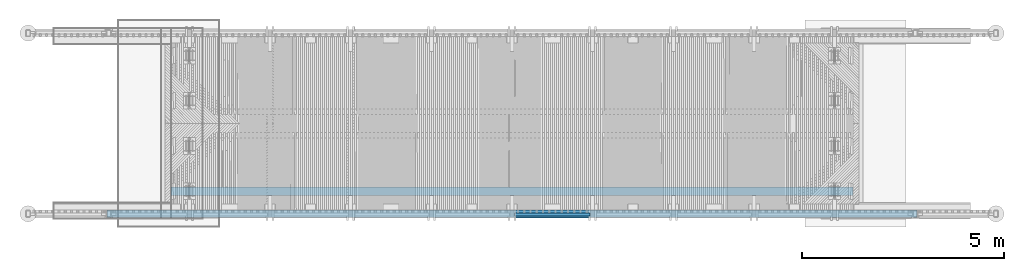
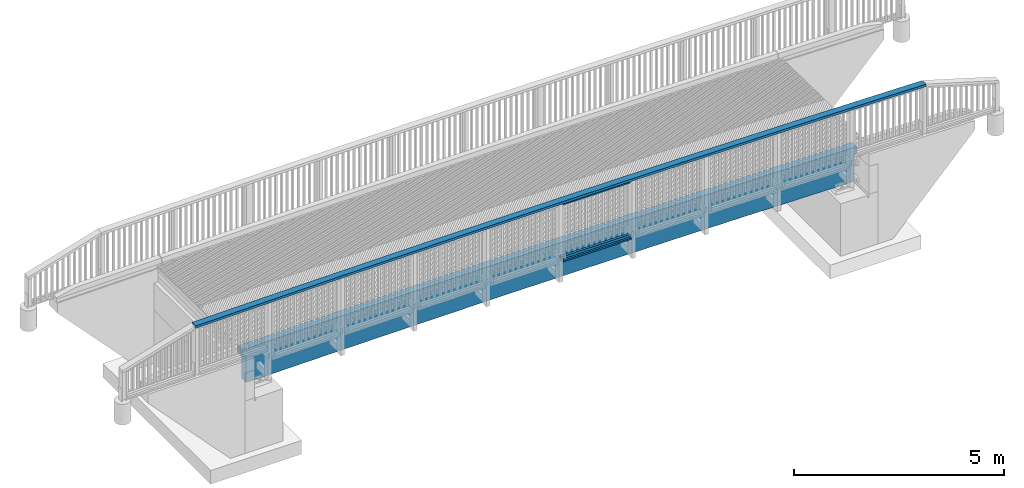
# One storey, part 28 of 52: 5 beams.
"""IFC2X3 building model written with IfcOpenShell, lengths in millimetres."""

from ifc_helpers import new_model, si_unit, frame, origin_with_axes, place, context, subcontext, project, spatial, faceted_brep, material, type_object, element, save


model = new_model("IFC2X3")

# Units and contexts
model_context = context("Model", 3, precision=1e-05, world=origin_with_axes())
body_context = subcontext(model_context, "Body", "Model", "MODEL_VIEW")
ifc_project = project(units=[si_unit("LENGTHUNIT", "METRE", prefix="MILLI"), si_unit("AREAUNIT", "SQUARE_METRE"), si_unit("VOLUMEUNIT", "CUBIC_METRE"), si_unit("MASSUNIT", "GRAM", prefix="KILO"), si_unit("TIMEUNIT", "SECOND"), si_unit("PLANEANGLEUNIT", "RADIAN"), si_unit("SOLIDANGLEUNIT", "STERADIAN"), si_unit("THERMODYNAMICTEMPERATUREUNIT", "DEGREE_CELSIUS"), si_unit("LUMINOUSINTENSITYUNIT", "LUMEN")], contexts=[model_context])

# Site, building, storey
site_placement = place(None, origin_with_axes())
site = spatial("IfcSite", under=ifc_project, at=site_placement, Name="Undefined", CompositionType="ELEMENT")
building_placement = place(site_placement, origin_with_axes())
building = spatial("IfcBuilding", under=site, at=building_placement, Name="Undefined", CompositionType="ELEMENT")
storey_placement = place(building_placement, origin_with_axes())
storey = spatial("IfcBuildingStorey", under=building, at=storey_placement, Name="Undefined", CompositionType="ELEMENT", Elevation=0.0)

# Beams
ifc_material = material(Name="TIMBER/Timber_Undefined")
beam_type_1 = type_object("IfcBeamType", Name="70*70", PredefinedType="NOTDEFINED")
for number, where, z_axis, x_axis, name in (
    (1, (8059.93901393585, 110.010014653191, 2968.2738534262), (0.0, -1.0, 0.0), (0.999998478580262, 0.0, -0.00174437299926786), "BEAM"),
    (2, (8059.93901393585, 110.010014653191, 4528.2738534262), (0.0, -1.0, 0.0), (0.999998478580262, 0.0, -0.00174437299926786), "BEAM"),
):
    element("IfcBeam", number, at=place(storey_placement, frame(where, z_axis=z_axis, x_axis=x_axis)), inside=storey, type_object=beam_type_1, material=ifc_material, Name=name, ObjectType="70*70", context=body_context, shape_type="Brep", body=[
        faceted_brep([(-3.63797880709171e-12, 35.0000000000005, -35.0), (-3.63797880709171e-12, 35.0000000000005, 35.0), (1880.00289069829, 35.0, 35.0), (1880.00289069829, 35.0, -35.0), (-3.63797880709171e-12, -34.9999999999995, 35.0), (1880.00289069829, -35.0000000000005, 35.0), (-3.63797880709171e-12, -34.9999999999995, -35.0), (1880.00289069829, -35.0000000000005, -35.0)], [[[0, 1, 2, 3]], [[1, 4, 5, 2]], [[4, 6, 7, 5]], [[6, 0, 3, 7]], [[5, 7, 3, 2]], [[6, 4, 1, 0]]]),
    ])
beam_type_2 = type_object("IfcBeamType", Name="180*70", PredefinedType="NOTDEFINED")
beam_1_placement = place(storey_placement, frame((-2050.58316541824, 125.012091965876, 4514.55540579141), z_axis=(0.0, -1.0, 0.0), x_axis=(1.0, 0.0, 0.0)))
element("IfcBeam", 3, at=beam_1_placement, inside=storey, type_object=beam_type_2, material=ifc_material, Name="YLÄJOHDE", ObjectType="180*70", context=body_context, shape_type="Brep", body=[
    faceted_brep([(402.548160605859, -28.4307633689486, -90.0), (402.548160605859, -28.4307633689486, 90.0), (9.583166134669, -34.8481648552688, 90.0), (9.583166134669, -34.8481648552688, -90.0), (401.428487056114, 41.5602812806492, 90.0), (9.58316627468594, 35.1611648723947, 90.0), (401.428487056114, 41.5602812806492, -90.0), (9.58316627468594, 35.1611648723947, -90.0), (803.444421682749, 47.8574786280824, -90.0), (804.517445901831, -22.1342967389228, -90.0), (804.517445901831, -22.1342967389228, 90.0), (803.444421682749, 47.8574786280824, 90.0), (1205.46446410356, 53.8867306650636, 90.0), (1205.46446410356, 53.8867306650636, -90.0), (1206.49083851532, -16.105744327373, -90.0), (1206.49083851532, -16.105744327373, 90.0), (1608.46815988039, -10.3451088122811, 90.0), (1607.4884357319, 59.6480347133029, 90.0), (1607.4884357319, 59.6480347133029, -90.0), (1608.46815988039, -10.3451088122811, -90.0), (2010.44923142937, -4.85239275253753, -90.0), (2010.44923142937, -4.85239275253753, 90.0), (2009.51615797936, 65.1413882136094, 90.0), (2009.51615797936, 65.1413882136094, -90.0), (2411.54745225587, 70.3667887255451, -90.0), (2412.43387459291, 0.372401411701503, -90.0), (2412.43387459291, 0.372401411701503, 90.0), (2411.54745225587, 70.3667887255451, 90.0), (2813.58213996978, 75.3242339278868, 90.0), (2813.58213996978, 75.3242339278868, -90.0), (2814.42191080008, 5.32927135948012, -90.0), (2814.42191080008, 5.32927135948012, 90.0), (3216.41316147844, 10.0182148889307, 90.0), (3215.62004252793, 80.0137216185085, 90.0), (3215.62004252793, 80.0137216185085, -90.0), (3216.41316147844, 10.0182148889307, -90.0), (3618.40744805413, 14.4392299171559, -90.0), (3618.40744805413, 14.4392299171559, 90.0), (3617.66098133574, 84.4352497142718, 90.0), (3617.66098133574, 84.4352497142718, -90.0), (4019.70477779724, 88.5888162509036, -90.0), (4020.40459195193, 18.5923144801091, -90.0), (4020.40459195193, 18.5923144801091, 90.0), (4019.70477779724, 88.5888162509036, 90.0), (4421.75125331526, 92.4744193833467, 90.0), (4421.75125331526, 92.4744193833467, -90.0), (4422.40441459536, 22.4774667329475, -90.0), (4422.40441459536, 22.4774667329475, 90.0), (4824.40673740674, 26.0946849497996, 90.0), (4823.80022929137, 96.0920573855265, 90.0), (4823.80022929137, 96.0920573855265, -90.0), (4824.40673740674, 26.0946849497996, -90.0), (5226.4113818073, 29.4439675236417, -90.0), (5226.4113818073, 29.4439675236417, 90.0), (5225.85152712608, 99.4417286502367, 90.0), (5225.85152712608, 99.4417286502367, -90.0), (5627.90496821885, 102.523431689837, -90.0), (5628.41816921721, 32.5253129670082, -90.0), (5628.41816921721, 32.5253129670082, 90.0), (5627.90496821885, 102.523431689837, 90.0), (6029.96037396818, 105.337165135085, 90.0), (6029.96037396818, 105.337165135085, -90.0), (6030.4269210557, 35.3387199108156, -90.0), (6030.4269210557, 35.3387199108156, 90.0), (6432.43745874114, 37.8841871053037, 90.0), (6432.01756577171, 107.882927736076, 90.0), (6432.01756577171, 107.882927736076, -90.0), (6432.43745874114, 37.8841871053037, -90.0), (6834.4496036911, 40.1617134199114, -90.0), (6834.4496036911, 40.1617134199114, 90.0), (6834.07636502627, 110.160718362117, 90.0), (6834.07636502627, 110.160718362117, -90.0), (7236.136593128, 112.170536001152, -90.0), (7236.46317732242, 42.1712978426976, -90.0), (7236.46317732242, 42.1712978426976, 90.0), (7236.136593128, 112.170536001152, 90.0), (7638.19807147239, 113.912379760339, 90.0), (7638.19807147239, 113.912379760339, -90.0), (7638.47800105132, 43.9129394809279, -90.0), (7638.47800105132, 43.9129394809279, 90.0), (8040.49389629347, 45.3866375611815, 90.0), (8040.26062145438, 115.38624886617, 90.0), (8040.26062145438, 115.38624886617, -90.0), (8040.49389629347, 45.3866375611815, -90.0), (8442.51068446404, 46.5923914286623, -90.0), (8442.51068446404, 46.5923914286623, 90.0), (8442.32406446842, 116.592142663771, 90.0), (8442.32406446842, 116.592142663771, -90.0), (8844.38822190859, 117.530060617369, -90.0), (8844.52818697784, 47.530200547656, -90.0), (8844.52818697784, 47.530200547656, 90.0), (8844.38822190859, 117.530060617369, 90.0), (9246.45291516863, 118.200002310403, 90.0), (9246.45291516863, 118.200002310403, -90.0), (9246.54622524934, 48.2000645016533, -90.0), (9246.54622524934, 48.2000645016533, 90.0), (9648.56462069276, 48.6019829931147, 90.0), (9648.51796564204, 118.601967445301, 90.0), (9648.51796564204, 118.601967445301, -90.0), (9648.56462069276, 48.6019829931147, -90.0), (10050.5831947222, 48.7359558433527, -90.0), (10050.5831947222, 48.7359558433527, 90.0), (10050.5831947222, 118.735955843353, 90.0), (10050.5831947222, 118.735955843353, -90.0), (10452.6484238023, 118.601967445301, -90.0), (10452.6017687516, 48.6019829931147, -90.0), (10452.6017687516, 48.6019829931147, 90.0), (10452.6484238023, 118.601967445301, 90.0), (10854.7134742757, 118.200002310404, 90.0), (10854.7134742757, 118.200002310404, -90.0), (10854.620164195, 48.2000645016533, -90.0), (10854.620164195, 48.2000645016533, 90.0), (11256.6382024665, 47.530200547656, 90.0), (11256.7781675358, 117.530060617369, 90.0), (11256.7781675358, 117.530060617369, -90.0), (11256.6382024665, 47.530200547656, -90.0), (11658.6557049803, 46.5923914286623, -90.0), (11658.6557049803, 46.5923914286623, 90.0), (11658.8423249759, 116.592142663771, 90.0), (11658.8423249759, 116.592142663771, -90.0), (12060.90576799, 115.386248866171, -90.0), (12060.6724931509, 45.3866375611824, -90.0), (12060.6724931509, 45.3866375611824, 90.0), (12060.90576799, 115.386248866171, 90.0), (12462.968317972, 113.912379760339, 90.0), (12462.968317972, 113.912379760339, -90.0), (12462.688388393, 43.9129394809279, -90.0), (12462.688388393, 43.9129394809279, 90.0), (12864.7032121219, 42.1712978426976, 90.0), (12865.0297963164, 112.170536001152, 90.0), (12865.0297963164, 112.170536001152, -90.0), (12864.7032121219, 42.1712978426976, -90.0), (13266.7167857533, 40.1617134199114, -90.0), (13266.7167857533, 40.1617134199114, 90.0), (13267.0900244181, 110.160718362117, 90.0), (13267.0900244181, 110.160718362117, -90.0), (13669.1488236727, 107.882927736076, -90.0), (13668.7289307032, 37.8841871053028, -90.0), (13668.7289307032, 37.8841871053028, 90.0), (13669.1488236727, 107.882927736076, 90.0), (14071.2060154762, 105.337165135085, 90.0), (14071.2060154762, 105.337165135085, -90.0), (14070.7394683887, 35.3387199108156, -90.0), (14070.7394683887, 35.3387199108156, 90.0), (14472.7482202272, 32.5253129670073, 90.0), (14473.2614212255, 102.523431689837, 90.0), (14473.2614212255, 102.523431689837, -90.0), (14472.7482202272, 32.5253129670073, -90.0), (14874.7550076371, 29.4439675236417, -90.0), (14874.7550076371, 29.4439675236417, 90.0), (14875.3148623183, 99.4417286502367, 90.0), (14875.3148623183, 99.4417286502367, -90.0), (15277.366160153, 96.0920573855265, -90.0), (15276.7596520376, 26.0946849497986, -90.0), (15276.7596520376, 26.0946849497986, 90.0), (15277.366160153, 96.0920573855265, 90.0), (15679.4151361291, 92.4744193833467, 90.0), (15679.4151361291, 92.4744193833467, -90.0), (15678.761974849, 22.4774667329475, -90.0), (15678.761974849, 22.4774667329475, 90.0), (16080.7617974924, 18.5923144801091, 90.0), (16081.4616116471, 88.5888162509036, 90.0), (16081.4616116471, 88.5888162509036, -90.0), (16080.7617974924, 18.5923144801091, -90.0), (16482.7589413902, 14.4392299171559, -90.0), (16482.7589413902, 14.4392299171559, 90.0), (16483.5054081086, 84.4352497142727, 90.0), (16483.5054081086, 84.4352497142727, -90.0), (16885.5463469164, 80.0137216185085, -90.0), (16884.7532279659, 10.0182148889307, -90.0), (16884.7532279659, 10.0182148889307, 90.0), (16885.5463469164, 80.0137216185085, 90.0), (17287.5842494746, 75.3242339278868, 90.0), (17287.5842494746, 75.3242339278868, -90.0), (17286.7444786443, 5.32927135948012, -90.0), (17286.7444786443, 5.32927135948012, 90.0), (17688.7325148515, 0.372401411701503, 90.0), (17689.6189371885, 70.3667887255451, 90.0), (17689.6189371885, 70.3667887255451, -90.0), (17688.7325148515, 0.372401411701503, -90.0), (18090.717158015, -4.85239275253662, -90.0), (18090.717158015, -4.85239275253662, 90.0), (18091.650231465, 65.1413882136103, 90.0), (18091.650231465, 65.1413882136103, -90.0), (18493.6779537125, 59.648034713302, -90.0), (18492.698229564, -10.3451088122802, -90.0), (18492.698229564, -10.3451088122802, 90.0), (18493.6779537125, 59.648034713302, 90.0), (18895.7019253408, 53.8867306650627, 90.0), (18895.7019253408, 53.8867306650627, -90.0), (18894.675550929, -16.1057443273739, -90.0), (18894.675550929, -16.1057443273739, 90.0), (19296.6489435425, -22.1342967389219, 90.0), (19297.7219677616, 47.8574786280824, 90.0), (19297.7219677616, 47.8574786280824, -90.0), (19296.6489435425, -22.1342967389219, -90.0), (19698.6182288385, -28.4307633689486, -90.0), (19698.6182288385, -28.4307633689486, 90.0), (19699.7379023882, 41.5602812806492, 90.0), (19699.7379023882, 41.5602812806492, -90.0), (20089.5831647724, 35.1938272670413, -90.0), (20089.5831646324, -34.8155024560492, -90.0), (20089.5831646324, -34.8155024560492, 90.0), (20089.5831647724, 35.1938272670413, 90.0)], [[[0, 1, 2, 3]], [[1, 4, 5, 2]], [[4, 6, 7, 5]], [[2, 5, 7, 3]], [[6, 0, 3, 7]], [[0, 6, 8, 9]], [[1, 0, 9, 10]], [[4, 1, 10, 11]], [[6, 4, 11, 8]], [[8, 11, 12, 13]], [[9, 8, 13, 14]], [[10, 9, 14, 15]], [[11, 10, 15, 12]], [[12, 15, 16, 17]], [[13, 12, 17, 18]], [[14, 13, 18, 19]], [[15, 14, 19, 16]], [[16, 19, 20, 21]], [[17, 16, 21, 22]], [[18, 17, 22, 23]], [[19, 18, 23, 20]], [[20, 23, 24, 25]], [[21, 20, 25, 26]], [[22, 21, 26, 27]], [[23, 22, 27, 24]], [[24, 27, 28, 29]], [[25, 24, 29, 30]], [[26, 25, 30, 31]], [[27, 26, 31, 28]], [[28, 31, 32, 33]], [[29, 28, 33, 34]], [[30, 29, 34, 35]], [[31, 30, 35, 32]], [[32, 35, 36, 37]], [[33, 32, 37, 38]], [[34, 33, 38, 39]], [[35, 34, 39, 36]], [[36, 39, 40, 41]], [[37, 36, 41, 42]], [[38, 37, 42, 43]], [[39, 38, 43, 40]], [[40, 43, 44, 45]], [[41, 40, 45, 46]], [[42, 41, 46, 47]], [[43, 42, 47, 44]], [[44, 47, 48, 49]], [[45, 44, 49, 50]], [[46, 45, 50, 51]], [[47, 46, 51, 48]], [[48, 51, 52, 53]], [[49, 48, 53, 54]], [[50, 49, 54, 55]], [[51, 50, 55, 52]], [[52, 55, 56, 57]], [[53, 52, 57, 58]], [[54, 53, 58, 59]], [[55, 54, 59, 56]], [[56, 59, 60, 61]], [[57, 56, 61, 62]], [[58, 57, 62, 63]], [[59, 58, 63, 60]], [[60, 63, 64, 65]], [[61, 60, 65, 66]], [[62, 61, 66, 67]], [[63, 62, 67, 64]], [[64, 67, 68, 69]], [[65, 64, 69, 70]], [[66, 65, 70, 71]], [[67, 66, 71, 68]], [[68, 71, 72, 73]], [[69, 68, 73, 74]], [[70, 69, 74, 75]], [[71, 70, 75, 72]], [[72, 75, 76, 77]], [[73, 72, 77, 78]], [[74, 73, 78, 79]], [[75, 74, 79, 76]], [[76, 79, 80, 81]], [[77, 76, 81, 82]], [[78, 77, 82, 83]], [[79, 78, 83, 80]], [[80, 83, 84, 85]], [[81, 80, 85, 86]], [[82, 81, 86, 87]], [[83, 82, 87, 84]], [[84, 87, 88, 89]], [[85, 84, 89, 90]], [[86, 85, 90, 91]], [[87, 86, 91, 88]], [[88, 91, 92, 93]], [[89, 88, 93, 94]], [[90, 89, 94, 95]], [[91, 90, 95, 92]], [[92, 95, 96, 97]], [[93, 92, 97, 98]], [[94, 93, 98, 99]], [[95, 94, 99, 96]], [[96, 99, 100, 101]], [[97, 96, 101, 102]], [[98, 97, 102, 103]], [[99, 98, 103, 100]], [[100, 103, 104, 105]], [[101, 100, 105, 106]], [[102, 101, 106, 107]], [[103, 102, 107, 104]], [[104, 107, 108, 109]], [[105, 104, 109, 110]], [[106, 105, 110, 111]], [[107, 106, 111, 108]], [[108, 111, 112, 113]], [[109, 108, 113, 114]], [[110, 109, 114, 115]], [[111, 110, 115, 112]], [[112, 115, 116, 117]], [[113, 112, 117, 118]], [[114, 113, 118, 119]], [[115, 114, 119, 116]], [[116, 119, 120, 121]], [[117, 116, 121, 122]], [[118, 117, 122, 123]], [[119, 118, 123, 120]], [[120, 123, 124, 125]], [[121, 120, 125, 126]], [[122, 121, 126, 127]], [[123, 122, 127, 124]], [[124, 127, 128, 129]], [[125, 124, 129, 130]], [[126, 125, 130, 131]], [[127, 126, 131, 128]], [[128, 131, 132, 133]], [[129, 128, 133, 134]], [[130, 129, 134, 135]], [[131, 130, 135, 132]], [[132, 135, 136, 137]], [[133, 132, 137, 138]], [[134, 133, 138, 139]], [[135, 134, 139, 136]], [[136, 139, 140, 141]], [[137, 136, 141, 142]], [[138, 137, 142, 143]], [[139, 138, 143, 140]], [[140, 143, 144, 145]], [[141, 140, 145, 146]], [[142, 141, 146, 147]], [[143, 142, 147, 144]], [[144, 147, 148, 149]], [[145, 144, 149, 150]], [[146, 145, 150, 151]], [[147, 146, 151, 148]], [[148, 151, 152, 153]], [[149, 148, 153, 154]], [[150, 149, 154, 155]], [[151, 150, 155, 152]], [[152, 155, 156, 157]], [[153, 152, 157, 158]], [[154, 153, 158, 159]], [[155, 154, 159, 156]], [[156, 159, 160, 161]], [[157, 156, 161, 162]], [[158, 157, 162, 163]], [[159, 158, 163, 160]], [[160, 163, 164, 165]], [[161, 160, 165, 166]], [[162, 161, 166, 167]], [[163, 162, 167, 164]], [[164, 167, 168, 169]], [[165, 164, 169, 170]], [[166, 165, 170, 171]], [[167, 166, 171, 168]], [[168, 171, 172, 173]], [[169, 168, 173, 174]], [[170, 169, 174, 175]], [[171, 170, 175, 172]], [[172, 175, 176, 177]], [[173, 172, 177, 178]], [[174, 173, 178, 179]], [[175, 174, 179, 176]], [[176, 179, 180, 181]], [[177, 176, 181, 182]], [[178, 177, 182, 183]], [[179, 178, 183, 180]], [[180, 183, 184, 185]], [[181, 180, 185, 186]], [[182, 181, 186, 187]], [[183, 182, 187, 184]], [[184, 187, 188, 189]], [[185, 184, 189, 190]], [[186, 185, 190, 191]], [[187, 186, 191, 188]], [[188, 191, 192, 193]], [[189, 188, 193, 194]], [[190, 189, 194, 195]], [[191, 190, 195, 192]], [[192, 195, 196, 197]], [[193, 192, 197, 198]], [[194, 193, 198, 199]], [[195, 194, 199, 196]], [[196, 199, 200, 201]], [[197, 196, 201, 202]], [[198, 197, 202, 203]], [[199, 198, 203, 200]], [[202, 201, 200, 203]]]),
])
beam_type_3 = type_object("IfcBeamType", Name="195*45", PredefinedType="NOTDEFINED")
beam_2_placement = place(storey_placement, frame((8058.9824575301, 117.510014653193, 2910.78468240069), z_axis=(0.0, -1.0, 0.0), x_axis=(0.999998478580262, 0.0, -0.00174437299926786)))
element("IfcBeam", 4, at=beam_2_placement, inside=storey, type_object=beam_type_3, material=ifc_material, Name="BEAM", ObjectType="195*45", context=body_context, shape_type="Brep", body=[
    faceted_brep([(3.63797880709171e-12, 22.4999999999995, -97.5), (3.63797880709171e-12, 22.4999999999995, 97.5), (1880.22135781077, 22.4999999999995, 97.5), (1880.22135781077, 22.4999999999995, -97.5), (1.81898940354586e-12, -22.5000000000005, 97.5), (1880.22135781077, -22.5000000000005, 97.5), (1.81898940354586e-12, -22.5000000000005, -97.5), (1880.22135781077, -22.5000000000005, -97.5)], [[[0, 1, 2, 3]], [[1, 4, 5, 2]], [[4, 6, 7, 5]], [[6, 0, 3, 7]], [[5, 7, 3, 2]], [[6, 4, 1, 0]]]),
])
beam_type_4 = type_object("IfcBeamType", Name="990*215", PredefinedType="NOTDEFINED")
beam_3_placement = place(storey_placement, frame((243.613169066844, 685.0, 2480.11879463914), z_axis=(0.0, 0.0, 1.0), x_axis=(1.0, 0.0, 0.0)))
element("IfcBeam", 5, at=beam_3_placement, inside=storey, type_object=beam_type_4, material=ifc_material, Name="PALKKI", ObjectType="990*215", context=body_context, shape_type="Brep", body=[
    faceted_brep([(16106.3868309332, 107.5, -494.790894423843), (16106.3868309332, -107.5, -494.790894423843), (16080.5342107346, -107.5, -494.790894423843), (15793.4597682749, -107.5, -494.790894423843), (15506.3868309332, -107.5, -494.958794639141), (15506.3868309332, 107.5, -494.958794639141), (15793.4597682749, 107.5, -494.790894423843), (16080.5342107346, 107.5, -494.790894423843), (16106.3868309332, 107.5, 285.209105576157), (16106.3868309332, -107.5, 285.209105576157), (16206.3868309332, 107.5, 285.209105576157), (16206.3868309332, -107.5, 285.209105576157), (16206.3868309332, 107.5, 485.682039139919), (16206.3868309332, -107.5, 485.682039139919), (-627.370013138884, 107.5, 486.625216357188), (-627.370013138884, -107.5, 486.625216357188), (-316.879497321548, -107.5, 490.87213125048), (-316.879497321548, 107.5, 490.87213125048), (-693.613169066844, -107.5, 485.684940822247), (-693.613169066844, -107.5, 285.209105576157), (-624.563039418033, -107.5, 285.209105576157), (-693.613169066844, 107.5, 485.684940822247), (-693.613169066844, 107.5, 285.209105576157), (-624.563039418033, 107.5, 285.209105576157), (-593.613169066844, 107.5, 285.209105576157), (-593.613169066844, -107.5, 285.209105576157), (-593.613169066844, 107.5, -494.790894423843), (-593.613169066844, -107.5, -494.790894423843), (-303.651924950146, -107.5, -494.790894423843), (-6.38683093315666, -107.5, 494.958794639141), (6.38683093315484, -107.5, -494.958794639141), (-6.38683093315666, 107.5, 494.958794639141), (6.38683093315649, 107.5, -494.790894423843), (304.107903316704, 107.5, 498.885205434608), (316.370645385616, 107.5, -491.038844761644), (-303.651924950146, 107.5, -494.790894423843), (316.370645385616, -107.5, -491.038844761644), (304.107903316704, -107.5, 498.885205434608), (614.604622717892, -107.5, 502.651362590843), (614.604622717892, 107.5, 502.651362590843), (626.356441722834, 107.5, -487.278884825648), (626.356441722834, -107.5, -487.278884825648), (936.344137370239, -107.5, -483.678915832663), (925.103244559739, -107.5, 506.257265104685), (925.103244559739, 107.5, 506.257265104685), (936.344137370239, 107.5, -483.678915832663), (1246.33364975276, 107.5, -480.238938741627), (1246.33364975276, -107.5, -480.238938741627), (1235.60368613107, -107.5, 509.702912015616), (1235.60368613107, 107.5, 509.702912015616), (1546.10586472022, 107.5, 512.988302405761), (1556.32489629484, 107.5, -476.958954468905), (1556.32489629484, -107.5, -476.958954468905), (1546.10586472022, -107.5, 512.988302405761), (1856.60969761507, -107.5, 516.113435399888), (1856.60969761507, 107.5, 516.113435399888), (1866.31779442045, 107.5, -473.838963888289), (1866.31779442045, -107.5, -473.838963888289), (2176.31226155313, -107.5, -470.878967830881), (2167.11510210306, -107.5, 519.078310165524), (2167.11510210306, 107.5, 519.078310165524), (2176.31226155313, 107.5, -470.878967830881), (2486.30821511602, 107.5, -468.078967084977), (2486.30821511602, -107.5, -468.078967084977), (2477.6219954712, -107.5, 521.882925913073), (2477.6219954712, 107.5, 521.882925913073), (2788.13029500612, 107.5, 524.527281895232), (2796.30557253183, 107.5, -465.438962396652), (2796.30557253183, -107.5, -465.438962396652), (2788.13029500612, -107.5, 524.527281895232), (3098.63991799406, -107.5, 527.011377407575), (3098.63991799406, 107.5, 527.011377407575), (3106.30425122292, 107.5, -462.958954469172), (3106.30425122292, -107.5, -462.958954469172), (3416.30416861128, -107.5, -460.638943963), (3409.15078172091, -107.5, 529.335211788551), (3409.15078172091, 107.5, 529.335211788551), (3416.30416861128, 107.5, -460.638943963), (3726.30524211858, 107.5, -458.478931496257), (3726.30524211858, -107.5, -458.478931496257), (3719.66280347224, -107.5, 531.49878441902), (3719.66280347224, 107.5, 531.49878441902), (4030.1759005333, 107.5, 533.502094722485), (4036.3073891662, 107.5, -456.478917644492), (4036.3073891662, -107.5, -456.478917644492), (4030.1759005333, -107.5, 533.502094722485), (4340.68999018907, -107.5, 535.345142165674), (4340.68999018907, 107.5, 535.345142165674), (4346.3105271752, 107.5, -454.638902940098), (4346.3105271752, -107.5, -454.638902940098), (4656.31457356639, -107.5, -452.958887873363), (4651.20498972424, -107.5, 537.027926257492), (4651.20498972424, 107.5, 537.027926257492), (4656.31457356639, 107.5, -452.958887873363), (4966.31944576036, 107.5, -451.438872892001), (4966.31944576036, -107.5, -451.438872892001), (4961.72081642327, -107.5, 538.550446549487), (4961.72081642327, 107.5, 538.550446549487), (5272.23738757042, 107.5, 539.912702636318), (5276.32506117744, 107.5, -450.078858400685), (5276.32506117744, -107.5, -450.078858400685), (5272.23738757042, -107.5, 539.912702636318), (5582.75462044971, -107.5, 541.114694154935), (5582.75462044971, 107.5, 541.114694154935), (5586.33133723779, 107.5, -448.878844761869), (5586.33133723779, -107.5, -448.878844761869), (5896.33819136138, -107.5, -447.838832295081), (5893.27243234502, -107.5, 542.156420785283), (5893.27243234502, 107.5, 542.156420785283), (5896.33819136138, 107.5, -447.838832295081), (6206.34554096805, 107.5, -446.958821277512), (6206.34554096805, -107.5, -446.958821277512), (6203.79074054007, -107.5, 543.037882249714), (6203.79074054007, 107.5, 543.037882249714), (6514.30946231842, 107.5, 543.759078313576), (6516.35330347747, 107.5, -446.238811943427), (6516.35330347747, -107.5, -446.238811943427), (6514.30946231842, -107.5, 543.759078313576), (6824.82851496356, -107.5, 544.320008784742), (6824.82851496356, 107.5, 544.320008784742), (6826.36139630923, 107.5, -445.678804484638), (6826.36139630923, -107.5, -445.678804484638), (7136.36973688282, -107.5, -445.278799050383), (7135.34781575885, -107.5, 544.720673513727), (7135.34781575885, 107.5, 544.720673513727), (7136.36973688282, 107.5, -445.278799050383), (7446.37824261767, 107.5, -445.038795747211), (7446.37824261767, -107.5, -445.038795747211), (7445.86728198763, -107.5, 544.961072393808), (7445.86728198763, 107.5, 544.961072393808), (7756.38683093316, 107.5, 545.041205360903), (7756.38683093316, 107.5, -444.958794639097), (7756.38683093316, -107.5, -444.958794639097), (7756.38683093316, -107.5, 545.041205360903), (8066.90637987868, -107.5, 544.961072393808), (8066.90637987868, 107.5, 544.961072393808), (8066.39541924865, 107.5, -445.038795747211), (8066.39541924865, -107.5, -445.038795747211), (8376.40392498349, -107.5, -445.278799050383), (8377.42584610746, -107.5, 544.720673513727), (8377.42584610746, 107.5, 544.720673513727), (8376.40392498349, 107.5, -445.278799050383), (8686.41226555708, 107.5, -445.678804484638), (8686.41226555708, -107.5, -445.678804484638), (8687.94514690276, -107.5, 544.320008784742), (8687.94514690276, 107.5, 544.320008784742), (8998.46419954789, 107.5, 543.759078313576), (8996.42035838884, 107.5, -446.238811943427), (8996.42035838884, -107.5, -446.238811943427), (8998.46419954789, -107.5, 543.759078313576), (9308.98292132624, -107.5, 543.037882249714), (9308.98292132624, 107.5, 543.037882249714), (9306.42812089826, 107.5, -446.958821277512), (9306.42812089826, -107.5, -446.958821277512), (9616.43547050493, -107.5, -447.838832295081), (9619.50122952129, -107.5, 542.156420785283), (9619.50122952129, 107.5, 542.156420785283), (9616.43547050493, 107.5, -447.838832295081), (9926.44232462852, 107.5, -448.878844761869), (9926.44232462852, -107.5, -448.878844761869), (9930.0190414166, -107.5, 541.114694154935), (9930.0190414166, 107.5, 541.114694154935), (10240.5362742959, 107.5, 539.912702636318), (10236.4486006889, 107.5, -450.078858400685), (10236.4486006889, -107.5, -450.078858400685), (10240.5362742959, -107.5, 539.912702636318), (10551.052845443, -107.5, 538.550446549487), (10551.052845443, 107.5, 538.550446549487), (10546.454216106, 107.5, -451.438872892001), (10546.454216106, -107.5, -451.438872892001), (10856.4590882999, -107.5, -452.958887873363), (10861.5686721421, -107.5, 537.027926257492), (10861.5686721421, 107.5, 537.027926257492), (10856.4590882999, 107.5, -452.958887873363), (11166.4631346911, 107.5, -454.638902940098), (11166.4631346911, -107.5, -454.638902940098), (11172.0836716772, -107.5, 535.345142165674), (11172.0836716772, 107.5, 535.345142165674), (11482.597761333, 107.5, 533.502094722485), (11476.4662727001, 107.5, -456.478917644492), (11476.4662727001, -107.5, -456.478917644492), (11482.597761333, -107.5, 533.502094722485), (11793.1108583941, -107.5, 531.49878441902), (11793.1108583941, 107.5, 531.49878441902), (11786.4684197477, 107.5, -458.478931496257), (11786.4684197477, -107.5, -458.478931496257), (12096.469493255, -107.5, -460.638943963), (12103.6228801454, -107.5, 529.335211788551), (12103.6228801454, 107.5, 529.335211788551), (12096.469493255, 107.5, -460.638943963), (12406.4694106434, 107.5, -462.958954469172), (12406.4694106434, -107.5, -462.958954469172), (12414.1337438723, -107.5, 527.011377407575), (12414.1337438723, 107.5, 527.011377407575), (12724.6433668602, 107.5, 524.527281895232), (12716.4680893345, 107.5, -465.438962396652), (12716.4680893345, -107.5, -465.438962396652), (12724.6433668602, -107.5, 524.527281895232), (13035.1516663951, -107.5, 521.882925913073), (13035.1516663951, 107.5, 521.882925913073), (13026.4654467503, 107.5, -468.078967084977), (13026.4654467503, -107.5, -468.078967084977), (13336.4614003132, -107.5, -470.878967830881), (13345.6585597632, -107.5, 519.078310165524), (13345.6585597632, 107.5, 519.078310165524), (13336.4614003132, 107.5, -470.878967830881), (13646.4558674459, 107.5, -473.838963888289), (13646.4558674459, -107.5, -473.838963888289), (13656.1639642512, -107.5, 516.113435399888), (13656.1639642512, 107.5, 516.113435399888), (13966.6677971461, 107.5, 512.988302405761), (13956.4487655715, 107.5, -476.958954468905), (13956.4487655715, -107.5, -476.958954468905), (13966.6677971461, -107.5, 512.988302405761), (14277.1699757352, -107.5, 509.702912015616), (14277.1699757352, 107.5, 509.702912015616), (14266.4400121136, 107.5, -480.238938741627), (14266.4400121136, -107.5, -480.238938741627), (14576.4295244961, -107.5, -483.678915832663), (14587.6704173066, -107.5, 506.257265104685), (14587.6704173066, 107.5, 506.257265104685), (14576.4295244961, 107.5, -483.678915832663), (14886.4172201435, 107.5, -487.278884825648), (14886.4172201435, -107.5, -487.278884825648), (14898.1690391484, -107.5, 502.651362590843), (14898.1690391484, 107.5, 502.651362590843), (15208.6657585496, 107.5, 498.885205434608), (15196.4030164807, 107.5, -491.038844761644), (15196.4030164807, -107.5, -491.038844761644), (15208.6657585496, -107.5, 498.885205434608), (15519.1604927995, -107.5, 494.958794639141), (15519.1604927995, 107.5, 494.958794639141), (15806.6537751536, -107.5, 491.180342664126), (15806.6537751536, 107.5, 491.180342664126), (16094.1452189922, -107.5, 487.264500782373), (16094.1452189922, 107.5, 487.264500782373)], [[[0, 1, 2, 3, 4, 5, 6, 7]], [[8, 9, 1, 0]], [[10, 11, 9, 8]], [[12, 13, 11, 10]], [[14, 15, 16, 17]], [[15, 18, 19, 20]], [[21, 22, 19, 18]], [[15, 14, 21, 18]], [[21, 14, 23, 22]], [[24, 25, 20, 19, 22, 23]], [[26, 27, 25, 24]], [[16, 15, 20, 25, 27, 28]], [[29, 16, 28, 30]], [[17, 16, 29, 31]], [[32, 31, 33, 34]], [[17, 31, 32, 35]], [[24, 23, 14, 17, 35, 26]], [[32, 30, 28, 27, 26, 35]], [[34, 36, 30, 32]], [[29, 30, 36, 37]], [[31, 29, 37, 33]], [[33, 37, 38, 39]], [[34, 33, 39, 40]], [[36, 34, 40, 41]], [[37, 36, 41, 38]], [[38, 41, 42, 43]], [[39, 38, 43, 44]], [[40, 39, 44, 45]], [[41, 40, 45, 42]], [[42, 45, 46, 47]], [[43, 42, 47, 48]], [[44, 43, 48, 49]], [[45, 44, 49, 46]], [[46, 49, 50, 51]], [[47, 46, 51, 52]], [[48, 47, 52, 53]], [[49, 48, 53, 50]], [[50, 53, 54, 55]], [[51, 50, 55, 56]], [[52, 51, 56, 57]], [[53, 52, 57, 54]], [[54, 57, 58, 59]], [[55, 54, 59, 60]], [[56, 55, 60, 61]], [[57, 56, 61, 58]], [[58, 61, 62, 63]], [[59, 58, 63, 64]], [[60, 59, 64, 65]], [[61, 60, 65, 62]], [[62, 65, 66, 67]], [[63, 62, 67, 68]], [[64, 63, 68, 69]], [[65, 64, 69, 66]], [[66, 69, 70, 71]], [[67, 66, 71, 72]], [[68, 67, 72, 73]], [[69, 68, 73, 70]], [[70, 73, 74, 75]], [[71, 70, 75, 76]], [[72, 71, 76, 77]], [[73, 72, 77, 74]], [[74, 77, 78, 79]], [[75, 74, 79, 80]], [[76, 75, 80, 81]], [[77, 76, 81, 78]], [[78, 81, 82, 83]], [[79, 78, 83, 84]], [[80, 79, 84, 85]], [[81, 80, 85, 82]], [[82, 85, 86, 87]], [[83, 82, 87, 88]], [[84, 83, 88, 89]], [[85, 84, 89, 86]], [[86, 89, 90, 91]], [[87, 86, 91, 92]], [[88, 87, 92, 93]], [[89, 88, 93, 90]], [[90, 93, 94, 95]], [[91, 90, 95, 96]], [[92, 91, 96, 97]], [[93, 92, 97, 94]], [[94, 97, 98, 99]], [[95, 94, 99, 100]], [[96, 95, 100, 101]], [[97, 96, 101, 98]], [[98, 101, 102, 103]], [[99, 98, 103, 104]], [[100, 99, 104, 105]], [[101, 100, 105, 102]], [[102, 105, 106, 107]], [[103, 102, 107, 108]], [[104, 103, 108, 109]], [[105, 104, 109, 106]], [[106, 109, 110, 111]], [[107, 106, 111, 112]], [[108, 107, 112, 113]], [[109, 108, 113, 110]], [[110, 113, 114, 115]], [[111, 110, 115, 116]], [[112, 111, 116, 117]], [[113, 112, 117, 114]], [[114, 117, 118, 119]], [[115, 114, 119, 120]], [[116, 115, 120, 121]], [[117, 116, 121, 118]], [[118, 121, 122, 123]], [[119, 118, 123, 124]], [[120, 119, 124, 125]], [[121, 120, 125, 122]], [[122, 125, 126, 127]], [[123, 122, 127, 128]], [[124, 123, 128, 129]], [[125, 124, 129, 126]], [[126, 129, 130, 131]], [[127, 126, 131, 132]], [[128, 127, 132, 133]], [[129, 128, 133, 130]], [[130, 133, 134, 135]], [[131, 130, 135, 136]], [[132, 131, 136, 137]], [[133, 132, 137, 134]], [[134, 137, 138, 139]], [[135, 134, 139, 140]], [[136, 135, 140, 141]], [[137, 136, 141, 138]], [[138, 141, 142, 143]], [[139, 138, 143, 144]], [[140, 139, 144, 145]], [[141, 140, 145, 142]], [[142, 145, 146, 147]], [[143, 142, 147, 148]], [[144, 143, 148, 149]], [[145, 144, 149, 146]], [[146, 149, 150, 151]], [[147, 146, 151, 152]], [[148, 147, 152, 153]], [[149, 148, 153, 150]], [[150, 153, 154, 155]], [[151, 150, 155, 156]], [[152, 151, 156, 157]], [[153, 152, 157, 154]], [[154, 157, 158, 159]], [[155, 154, 159, 160]], [[156, 155, 160, 161]], [[157, 156, 161, 158]], [[158, 161, 162, 163]], [[159, 158, 163, 164]], [[160, 159, 164, 165]], [[161, 160, 165, 162]], [[162, 165, 166, 167]], [[163, 162, 167, 168]], [[164, 163, 168, 169]], [[165, 164, 169, 166]], [[166, 169, 170, 171]], [[167, 166, 171, 172]], [[168, 167, 172, 173]], [[169, 168, 173, 170]], [[170, 173, 174, 175]], [[171, 170, 175, 176]], [[172, 171, 176, 177]], [[173, 172, 177, 174]], [[174, 177, 178, 179]], [[175, 174, 179, 180]], [[176, 175, 180, 181]], [[177, 176, 181, 178]], [[178, 181, 182, 183]], [[179, 178, 183, 184]], [[180, 179, 184, 185]], [[181, 180, 185, 182]], [[182, 185, 186, 187]], [[183, 182, 187, 188]], [[184, 183, 188, 189]], [[185, 184, 189, 186]], [[186, 189, 190, 191]], [[187, 186, 191, 192]], [[188, 187, 192, 193]], [[189, 188, 193, 190]], [[190, 193, 194, 195]], [[191, 190, 195, 196]], [[192, 191, 196, 197]], [[193, 192, 197, 194]], [[194, 197, 198, 199]], [[195, 194, 199, 200]], [[196, 195, 200, 201]], [[197, 196, 201, 198]], [[198, 201, 202, 203]], [[199, 198, 203, 204]], [[200, 199, 204, 205]], [[201, 200, 205, 202]], [[202, 205, 206, 207]], [[203, 202, 207, 208]], [[204, 203, 208, 209]], [[205, 204, 209, 206]], [[206, 209, 210, 211]], [[207, 206, 211, 212]], [[208, 207, 212, 213]], [[209, 208, 213, 210]], [[210, 213, 214, 215]], [[211, 210, 215, 216]], [[212, 211, 216, 217]], [[213, 212, 217, 214]], [[214, 217, 218, 219]], [[215, 214, 219, 220]], [[216, 215, 220, 221]], [[217, 216, 221, 218]], [[218, 221, 222, 223]], [[219, 218, 223, 224]], [[220, 219, 224, 225]], [[221, 220, 225, 222]], [[222, 225, 226, 227]], [[223, 222, 227, 228]], [[224, 223, 228, 229]], [[225, 224, 229, 226]], [[226, 229, 230, 231]], [[231, 230, 232, 233]], [[233, 232, 234, 235]], [[8, 0, 7, 235, 12, 10]], [[233, 235, 7, 6]], [[231, 233, 6, 5]], [[227, 226, 231, 5]], [[228, 227, 5, 4]], [[229, 228, 4, 230]], [[232, 230, 4, 3]], [[234, 232, 3, 2]], [[234, 2, 1, 9, 11, 13]], [[235, 234, 13, 12]]]),
])

save(model, "model.ifc")
